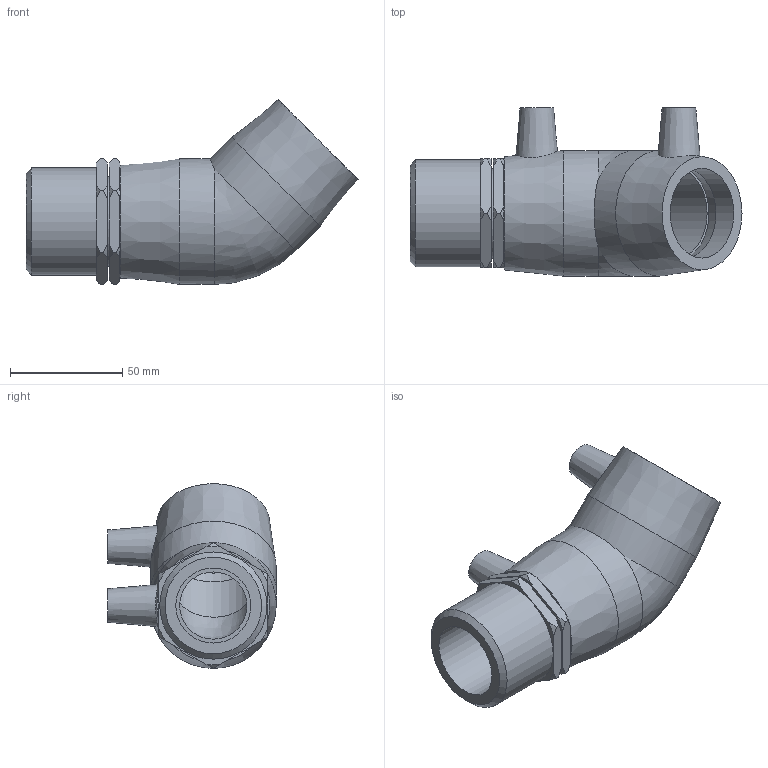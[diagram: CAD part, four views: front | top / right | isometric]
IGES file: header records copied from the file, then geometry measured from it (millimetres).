
Global section: file name: 497604040015.ipt; native system: Autodesk Inventor 2015; preprocessor: unknown; author: KIM; date: 20171106.094436; units: millimetre
Bounding box: 148 x 75 x 82.34 mm (x, y, z)
Volume: 187432.9 mm3; surface area: 49964.1 mm2
Topology: 1 solids, 2 shells, 77 faces, 196 edges, 133 vertices
Faces by surface type: plane 30, cone 29, revolution 8, cylinder 8, bspline 2
Full cylindrical faces by diameter (mm): 4 x2, 40 x3, 47.803 x1, 56 x2
